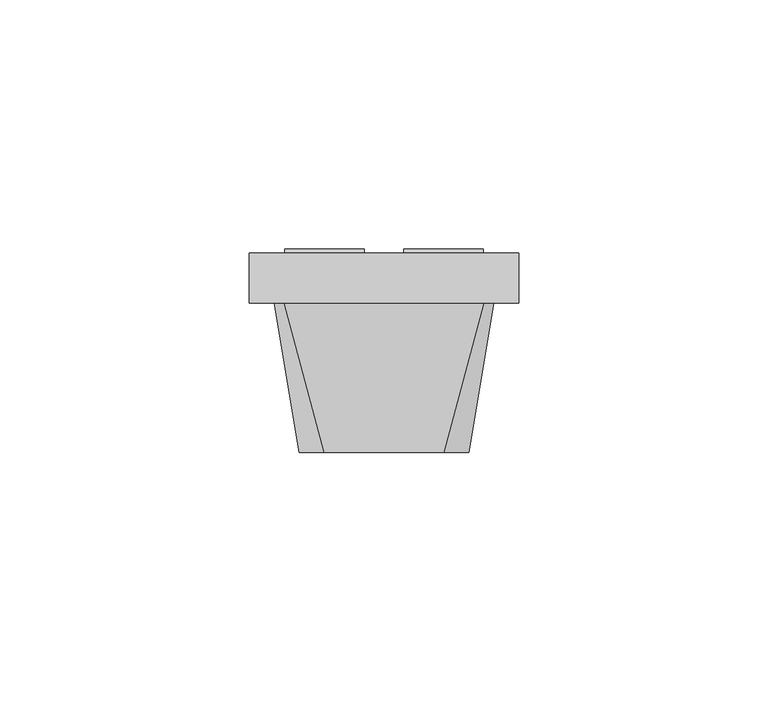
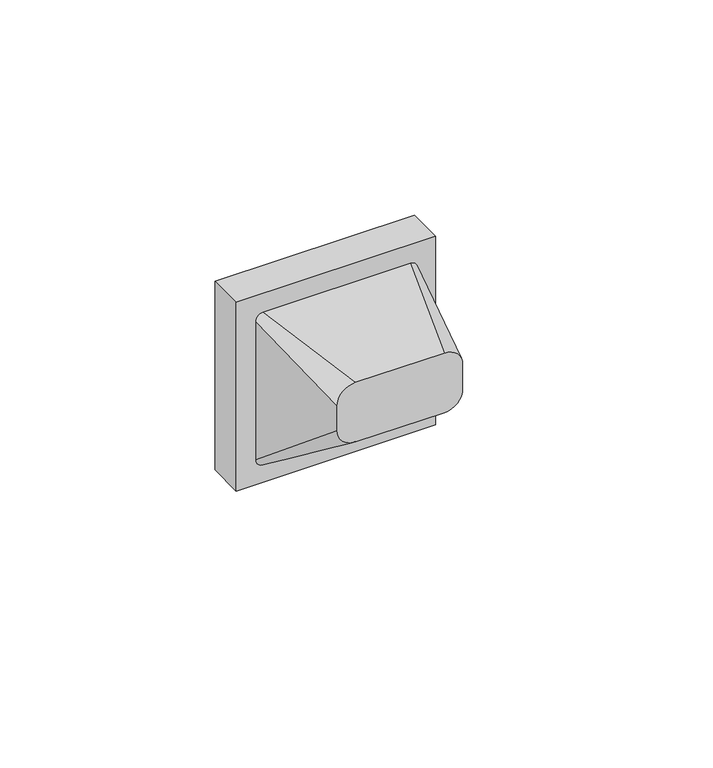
"""IFC4 building model written with IfcOpenShell, lengths in millimetres: proxy geometry, IEK_Brite_Механизм розетки информационной : RJ45+RJ11_РК/Т12-БрА."""

from ifc_helpers import new_model, si_unit, frame, origin, place, context, project, spatial, polyline, circle_curve, outline, extrude, faceted_brep, source, transform, mapped, element, save
from ifc_brep_helpers import plane_surface, spline_surface, advanced_brep


def electrical_fixtures_2a9b6cd9(model_context):
    return source(origin(), model_context, "Body", "SolidModel", [
        extrude(outline(polyline([(0.0, -2.0472767), (0.0, 0.0), (15.9203523, 0.0), (15.9203523, -2.0472767), (0.0, -2.0472767)])), frame((-3.9809845, 8.4780014, 9.3671478), z_axis=(0.0, 0.3420201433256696, 0.9396926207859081), x_axis=(-1.0, 0.0, 0.0)), (0.0, 0.0, 1.0), 1.1350324),
        extrude(outline(polyline([(0.0, -2.0472767), (0.0, 0.0), (15.9203523, 0.0), (15.9203523, -2.0472767), (0.0, -2.0472767)])), frame((3.9809845, 10.4018122, 8.6669379), z_axis=(0.0, 0.3420201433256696, 0.9396926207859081), x_axis=(1.0, 0.0, 0.0)), (0.0, 0.0, 1.0), 1.1350324),
        faceted_brep([(-27.0, 10.0, 27.0), (27.0, 10.0, 27.0), (27.0, 10.0, -27.0), (-27.0, 10.0, -27.0), (-22.0, 10.0, 10.625), (-22.0, 10.0, -10.479217), (22.0, 10.0, -10.479217), (22.0, 10.0, -8.6017917), (22.0, 10.0, 10.625), (19.9013368, 10.0, 10.625), (3.9809845, 10.0, 10.625), (1.5957665, 10.0, 10.625), (-3.9809845, 10.0, 10.625), (-19.9013368, 10.0, 10.625), (-27.0, 0.0, 27.0), (-27.0, 0.0, -27.0), (27.0, 0.0, -27.0), (27.0, 0.0, 27.0), (22.0, 4.3684205, -4.8476375), (22.0, 4.8694043, -3.471196), (-22.0, 4.3684205, -4.8476375), (-19.9013368, 5.1767352, -2.626811), (-3.9809845, 5.1767352, -2.626811), (3.9809845, 5.1767352, -2.626811), (19.9013368, 5.1767352, -2.626811), (19.9013368, 4.2370426, -2.2847909), (3.9809845, 4.2370426, -2.2847909), (3.9809845, 9.0603074, 10.9670201), (19.9013368, 9.0603074, 10.9670201), (-19.9013368, 4.2370426, -2.2847909), (-19.9013368, 9.0603074, 10.9670201), (-3.9809845, 9.0603074, 10.9670201), (-3.9809845, 4.2370426, -2.2847909)], [[[0, 1, 2, 3], [4, 5, 6, 7, 8, 9, 10, 11, 12, 13]], [[14, 15, 16, 17]], [[0, 3, 15, 14]], [[3, 2, 16, 15]], [[2, 1, 17, 16]], [[1, 0, 14, 17]], [[6, 18, 19, 8, 7]], [[20, 5, 4]], [[18, 6, 5, 20]], [[20, 4, 13, 21, 22, 12, 11, 10, 23, 24, 9, 8, 19, 18]], [[25, 26, 27, 28]], [[25, 28, 9, 24]], [[28, 27, 10, 9]], [[27, 26, 23, 10]], [[26, 25, 24, 23]], [[29, 30, 31, 32]], [[30, 29, 21, 13]], [[31, 30, 13, 12]], [[32, 31, 12, 22]], [[29, 32, 22, 21]]]),
        advanced_brep(
        [(-12.0, -30.0, 17.0), (-17.0, -30.0, 12.0), (-17.0, -30.0, 5.0), (-12.0, -30.0, 0.0), (12.0, -30.0, 0.0), (17.0, -30.0, 5.0), (17.0, -30.0, 12.0), (12.0, -30.0, 17.0), (-20.0, 0.0, 22.0), (20.0, 0.0, 22.0), (22.0, 0.0, 20.0), (22.0, 0.0, -20.0), (20.0, 0.0, -22.0), (-20.0, 0.0, -22.0), (-22.0, 0.0, -20.0), (-22.0, 0.0, 20.0)],
        [
            (0, 1, circle_curve(frame((-12.0, -30.0, 12.0), z_axis=(0.0, -1.0, 0.0), x_axis=(1.0, 0.0, 0.0)), 5.0)),
            (1, 2),
            (2, 3, circle_curve(frame((-12.0, -30.0, 5.0), z_axis=(0.0, -1.0, 0.0), x_axis=(1.0, 0.0, 0.0)), 5.0)),
            (3, 4),
            (4, 5, circle_curve(frame((12.0, -30.0, 5.0), z_axis=(0.0, -1.0, 0.0), x_axis=(1.0, 0.0, 0.0)), 5.0)),
            (5, 6),
            (6, 7, circle_curve(frame((12.0, -30.0, 12.0), z_axis=(0.0, -1.0, 0.0), x_axis=(1.0, 0.0, 0.0)), 5.0)),
            (7, 0),
            (8, 9),
            (9, 10, circle_curve(frame((20.0, 0.0, 20.0), z_axis=(0.0, 1.0, 0.0), x_axis=(1.0, 0.0, 0.0)), 2.0)),
            (10, 11),
            (11, 12, circle_curve(frame((20.0, 0.0, -20.0), z_axis=(0.0, 1.0, 0.0), x_axis=(1.0, 0.0, 0.0)), 2.0)),
            (12, 13),
            (13, 14, circle_curve(frame((-20.0, 0.0, -20.0), z_axis=(0.0, 1.0, 0.0), x_axis=(1.0, 0.0, 0.0)), 2.0)),
            (14, 15),
            (15, 8, circle_curve(frame((-20.0, 0.0, 20.0), z_axis=(0.0, 1.0, 0.0), x_axis=(1.0, 0.0, 0.0)), 2.0)),
            (8, 0),
            (7, 9),
            (6, 10),
            (5, 11),
            (4, 12),
            (3, 13),
            (2, 14),
            (1, 15),
        ],
        [
            plane_surface(frame((0.0, -30.0, 8.5), z_axis=(0.0, -1.0, 0.0), x_axis=(-1.0, 0.0, 0.0))),
            plane_surface(frame((0.0, 0.0, 0.0), z_axis=(0.0, 1.0, 0.0), x_axis=(-1.0, 0.0, 0.0))),
            plane_surface(frame((0.0, 0.0, 22.0), z_axis=(0.0, -0.16439898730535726, 0.9863939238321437), x_axis=(-1.0, 0.0, 0.0))),
            spline_surface(2, 1, [[(22.0, 0.0, 20.0), (17.0, -30.0, 12.0)], [(22.0, 0.0, 22.0), (17.0, -30.0, 17.0)], [(20.0, 0.0, 22.0), (12.0, -30.0, 17.0)]], [3, 3], [2, 2], [0.0, 1.0], [0.0, 1.0], weights=[[1.0, 1.0], [0.7071067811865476, 0.7071067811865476], [1.0, 1.0]]),
            plane_surface(frame((22.0, 0.0, 0.0), z_axis=(0.9863939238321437, -0.1643989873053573, 0.0), x_axis=(0.0, 0.0, 1.0))),
            spline_surface(2, 1, [[(20.0, 0.0, -22.0), (12.0, -30.0, 0.0)], [(22.0, 0.0, -22.0), (17.0, -30.0, 0.0)], [(22.0, 0.0, -20.0), (17.0, -30.0, 5.0)]], [3, 3], [2, 2], [0.0, 1.0], [0.0, 1.0], weights=[[1.0, 1.0], [0.7071067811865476, 0.7071067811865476], [1.0, 1.0]]),
            plane_surface(frame((0.0, 0.0, -22.0), z_axis=(0.0, -0.591363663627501, -0.8064049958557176), x_axis=(1.0, 0.0, 0.0))),
            spline_surface(2, 1, [[(-22.0, 0.0, -20.0), (-17.0, -30.0, 5.0)], [(-22.0, 0.0, -22.0), (-17.0, -30.0, 0.0)], [(-20.0, 0.0, -22.0), (-12.0, -30.0, 0.0)]], [3, 3], [2, 2], [0.0, 1.0], [0.0, 1.0], weights=[[1.0, 1.0], [0.7071067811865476, 0.7071067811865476], [1.0, 1.0]]),
            plane_surface(frame((-22.0, 0.0, 0.0), z_axis=(-0.9863939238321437, -0.1643989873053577, 0.0), x_axis=(0.0, 0.0, -1.0))),
            spline_surface(2, 1, [[(-20.0, 0.0, 22.0), (-12.0, -30.0, 17.0)], [(-22.0, 0.0, 22.0), (-17.0, -30.0, 17.0)], [(-22.0, 0.0, 20.0), (-17.0, -30.0, 12.0)]], [3, 3], [2, 2], [0.0, 1.0], [0.0, 1.0], weights=[[1.0, 1.0], [0.7071067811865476, 0.7071067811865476], [1.0, 1.0]]),
        ],
        [
            (0, [[1, 2, 3, 4, 5, 6, 7, 8]]),
            (1, [[9, 10, 11, 12, 13, 14, 15, 16]]),
            (2, [[-9, 17, -8, 18]]),
            (3, [[-10, -18, -7, 19]]),
            (4, [[-11, -19, -6, 20]]),
            (5, [[-12, -20, -5, 21]]),
            (6, [[-13, -21, -4, 22]]),
            (7, [[-14, -22, -3, 23]]),
            (8, [[-15, -23, -2, 24]]),
            (9, [[-16, -24, -1, -17]]),
        ],
    ),
    ])


if __name__ == "__main__":
    model = new_model("IFC4")
    model_context = context("Model", 3, world=origin())
    ifc_project = project(units=[si_unit("LENGTHUNIT", "METRE", prefix="MILLI")], contexts=[model_context])
    site = spatial("IfcSite", under=ifc_project)
    building = spatial("IfcBuilding", under=site)
    placement = place(None, origin())
    electrical_fixtures_shape = electrical_fixtures_2a9b6cd9(model_context)
    element("IfcBuildingElementProxy", 1, Name="IEK_Brite_Механизм розетки информационной : RJ45+RJ11_РК/Т12-БрА", ObjectType="IEK_Brite_Механизм розетки информационной : RJ45+RJ11_РК/Т12-БрА", at=placement, inside=building, context=model_context, shape_type="MappedRepresentation", body=[
        mapped(electrical_fixtures_shape, transform((0.0, 0.0, 0.0), x_axis=(1.0, 0.0, 0.0), y_axis=(0.0, 1.0, 0.0), z_axis=(0.0, 0.0, 1.0))),
    ])
    save(model, "model.ifc")
